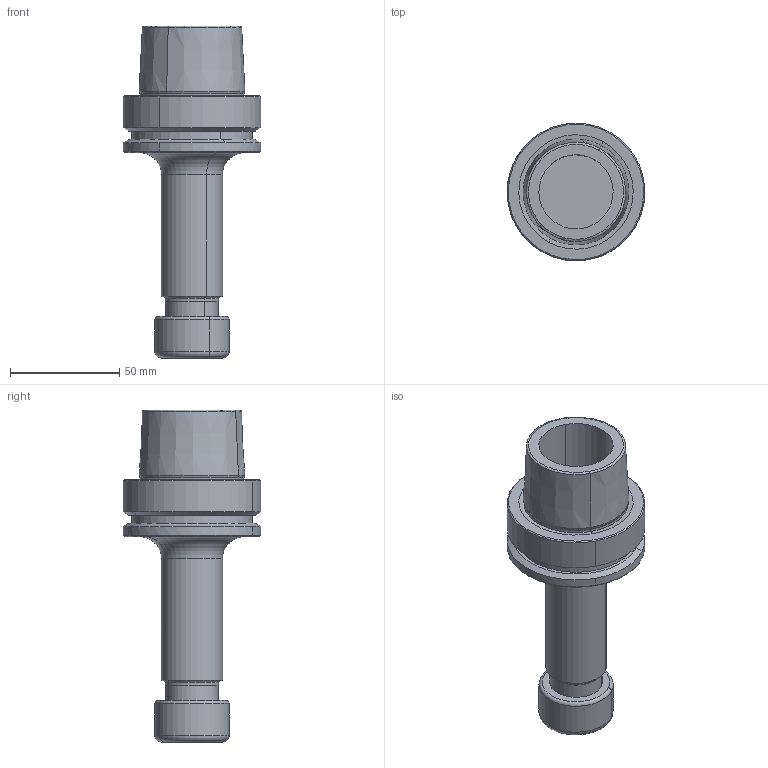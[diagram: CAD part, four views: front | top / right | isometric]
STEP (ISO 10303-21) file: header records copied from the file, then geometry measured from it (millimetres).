
FILE_DESCRIPTION(('CATIA V5 STEP','CAx-IF Rec.Pracs.--- Model Styling and Organization---1.2---2011-12-15'),'2;1');
FILE_NAME('\\nas01\drv1\utils\eitdev\rte\eit\transmagicconvert\db\out\635929485900530478\4561141-L-B.stp','2016-03-07T09:56:44+00:00',('none'),('none'),'CATIA Version 5 Release 21 SP 5 (IN-10)','CATIA V5 STEP AP214','none');
FILE_SCHEMA(('AUTOMOTIVE_DESIGN { 1 0 10303 214 1 1 1 1 }'));
Length unit declared in the file: millimetre
Products named in the file (1): HSK A 63 ER20X120 M 
Bounding box: 62.98 x 63 x 152 mm (x, y, z)
Volume: 148906.4 mm3; surface area: 32337 mm2
Topology: 1 solids, 1 shells, 68 faces, 148 edges, 89 vertices
Faces by surface type: cylinder 24, cone 20, torus 14, plane 10
Entity records: 1749 total; most frequent: CARTESIAN_POINT 382, ORIENTED_EDGE 292, DIRECTION 222, EDGE_CURVE 146, AXIS2_PLACEMENT_3D 138, CIRCLE 96, VERTEX_POINT 89, EDGE_LOOP 77
